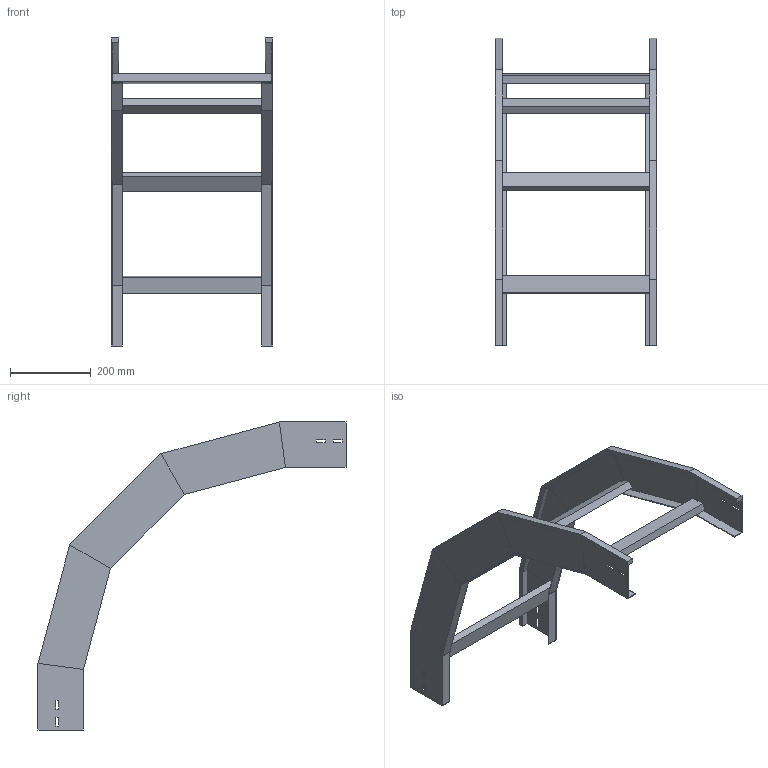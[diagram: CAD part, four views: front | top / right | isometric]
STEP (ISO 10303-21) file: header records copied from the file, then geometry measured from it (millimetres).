
FILE_DESCRIPTION (( 'STEP AP214' ), '1' );
FILE_NAME ('33B5J400.step', '2025-02-21T15:03:02', ( '' ), ( '' ), 'SwSTEP 2.0', 'SolidWorks 2023', '' );
FILE_SCHEMA (( 'AUTOMOTIVE_DESIGN' ));
Length unit declared in the file: millimetre
Products named in the file (3): 33B5J400; LONGH.DISCESA_90°_H112.5_R500; TRAVERSINO_400
Assembly tree (6 placements, depth 2):
  33B5J400
    LONGH.DISCESA_90°_H112.5_R500  x2
    TRAVERSINO_400  x4
Bounding box: 400 x 762.85 x 762.85 mm (x, y, z)
Volume: 2392482 mm3; surface area: 920603.5 mm2
Topology: 6 solids, 6 shells, 140 faces, 320 edges, 192 vertices
Faces by surface type: plane 140
Entity records: 1872 total; most frequent: CARTESIAN_POINT 309, ORIENTED_EDGE 296, DIRECTION 294, VECTOR 148, LINE 148, EDGE_CURVE 148, VERTEX_POINT 88, AXIS2_PLACEMENT_3D 73
